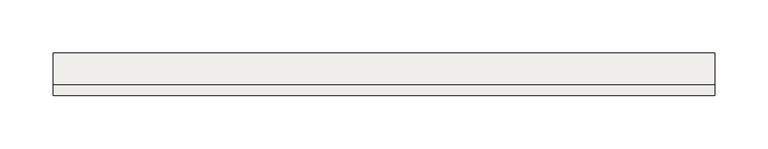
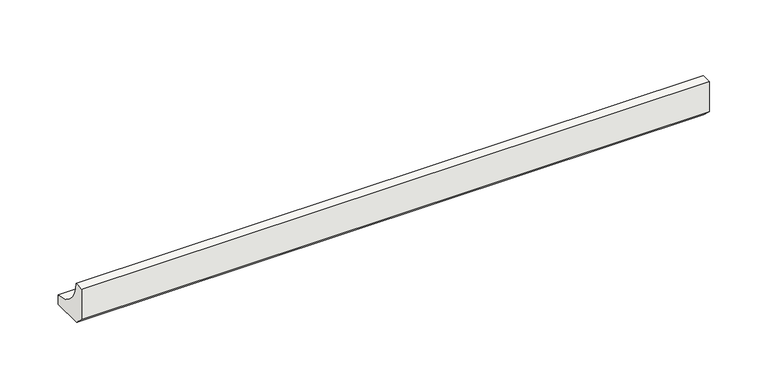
"""IFC4 building model written with IfcOpenShell, lengths in millimetres: slab geometry, ROSA GRES_188 : Pieza 188_Serena_Ocra_Anti-Slip."""

from ifc_helpers import new_model, si_unit, point, frame, frame_2d, origin, place, context, project, spatial, polyline, circle_curve, trimmed, segment, composite_curve, outline, extrude, source, transform, mapped, element, save


def slab_9e1d812a(model_context):
    return source(origin(), model_context, "Body", "SweptSolid", [
        extrude(outline(composite_curve([segment(polyline([(0.0, 8.7114978), (0.0, 40.0), (9.9734114, 40.0)]), True, "CONTINUOUS"), segment(trimmed(circle_curve(frame_2d((39.9955547, 39.9955547)), 30.0221435), [point((9.9734114, 40.0))], [point((40.0, 9.9734114))], True, "CARTESIAN"), True, "CONTINUOUS"), segment(polyline([(40.0, 9.9734114), (40.0, 0.0), (8.7114978, 0.0), (0.0, 8.7114978)]), True, "CONTINUOUS")], self_intersect=False)), frame((0.0, 0.0, 0.0), z_axis=(1.0, 0.0, 0.0), x_axis=(0.0, 1.0, 0.0)), (0.0, 0.0, 1.0), 620.0),
    ])


if __name__ == "__main__":
    model = new_model("IFC4")
    model_context = context("Model", 3, world=origin())
    ifc_project = project(units=[si_unit("LENGTHUNIT", "METRE", prefix="MILLI")], contexts=[model_context])
    site = spatial("IfcSite", under=ifc_project)
    building = spatial("IfcBuilding", under=site)
    placement = place(None, origin())
    slab_shape = slab_9e1d812a(model_context)
    element("IfcSlab", 1, ObjectType="ROSA GRES_188 : Pieza 188_Serena_Ocra_Anti-Slip", at=placement, inside=building, context=model_context, shape_type="MappedRepresentation", body=[
        mapped(slab_shape, transform((0.0, 0.0, 0.0), x_axis=(1.0, 0.0, 0.0), y_axis=(0.0, 1.0, 0.0), z_axis=(0.0, 0.0, 1.0))),
    ])
    save(model, "model.ifc")
